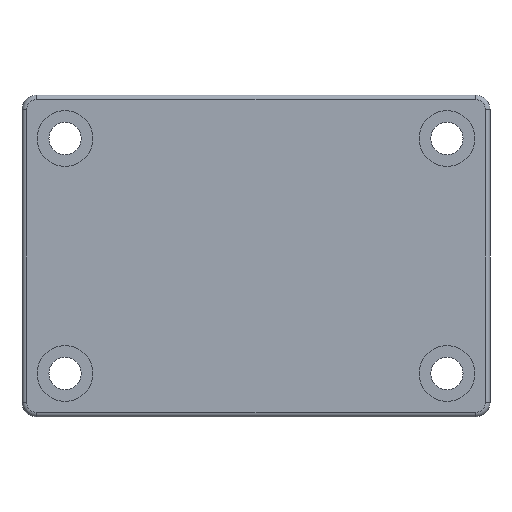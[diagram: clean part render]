
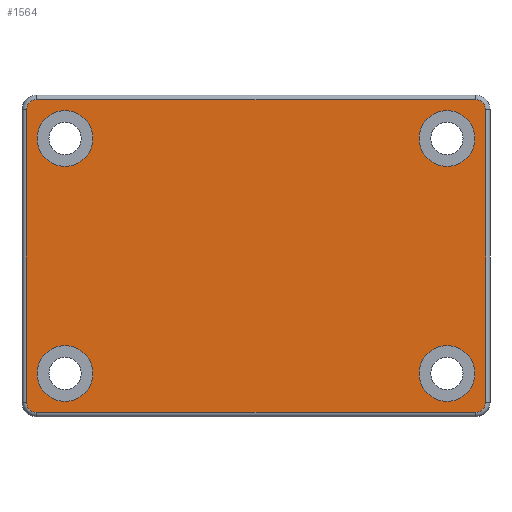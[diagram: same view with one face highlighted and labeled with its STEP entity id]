
A CAD part, front view. The second image highlights one B-rep face of the part: STEP entity #1564.
In plain terms, the highlighted planar face has unit normal (0, -1, 0).
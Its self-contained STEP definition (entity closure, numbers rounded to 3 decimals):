
#32 = EDGE_CURVE ( 'NONE', #1865, #757, #979, .T. ) ;
#47 = LINE ( 'NONE', #1598, #490 ) ;
#57 = VERTEX_POINT ( 'NONE', #849 ) ;
#142 = AXIS2_PLACEMENT_3D ( 'NONE', #687, #1727, #819 ) ;
#150 = ORIENTED_EDGE ( 'NONE', *, *, #1289, .T. ) ;
#181 = DIRECTION ( 'NONE',  ( 0., -1., 0. ) ) ;
#203 = EDGE_CURVE ( 'NONE', #757, #1089, #1451, .T. ) ;
#206 = AXIS2_PLACEMENT_3D ( 'NONE', #1250, #373, #1407 ) ;
#214 = LINE ( 'NONE', #707, #944 ) ;
#229 = EDGE_CURVE ( 'NONE', #521, #1394, #1803, .T. ) ;
#240 = DIRECTION ( 'NONE',  ( 0., -1., 0. ) ) ;
#262 = CIRCLE ( 'NONE', #637, 1.9 ) ;
#288 = AXIS2_PLACEMENT_3D ( 'NONE', #1314, #419, #1459 ) ;
#314 = AXIS2_PLACEMENT_3D ( 'NONE', #662, #1704, #796 ) ;
#317 = EDGE_LOOP ( 'NONE', ( #821, #1785 ) ) ;
#332 = CARTESIAN_POINT ( 'NONE',  ( 15.63, 0., 9.95 ) ) ;
#359 = FACE_BOUND ( 'NONE', #317, .T. ) ;
#373 = DIRECTION ( 'NONE',  ( 0., -1., 0. ) ) ;
#388 = CIRCLE ( 'NONE', #695, 0.7 ) ;
#403 = CIRCLE ( 'NONE', #1263, 1.9 ) ;
#419 = DIRECTION ( 'NONE',  ( 0., 1., 0. ) ) ;
#424 = EDGE_CURVE ( 'NONE', #1053, #1618, #1911, .T. ) ;
#444 = CARTESIAN_POINT ( 'NONE',  ( -13., 0., 6.1 ) ) ;
#451 = DIRECTION ( 'NONE',  ( 0., -1., 0. ) ) ;
#459 = VERTEX_POINT ( 'NONE', #562 ) ;
#481 = CIRCLE ( 'NONE', #206, 1.9 ) ;
#485 = ORIENTED_EDGE ( 'NONE', *, *, #755, .T. ) ;
#490 = VECTOR ( 'NONE', #712, 1000. ) ;
#513 = CARTESIAN_POINT ( 'NONE',  ( 13., 0., -8. ) ) ;
#521 = VERTEX_POINT ( 'NONE', #1763 ) ;
#530 = EDGE_CURVE ( 'NONE', #1482, #57, #1681, .T. ) ;
#531 = VECTOR ( 'NONE', #700, 1000. ) ;
#533 = CARTESIAN_POINT ( 'NONE',  ( 13., 0., -6.1 ) ) ;
#550 = CARTESIAN_POINT ( 'NONE',  ( 14.93, 0., 10.65 ) ) ;
#553 = CARTESIAN_POINT ( 'NONE',  ( -14.93, 0., -9.95 ) ) ;
#562 = CARTESIAN_POINT ( 'NONE',  ( 13., 0., 9.9 ) ) ;
#573 = AXIS2_PLACEMENT_3D ( 'NONE', #553, #1595, #704 ) ;
#584 = DIRECTION ( 'NONE',  ( 0., -1., 0. ) ) ;
#599 = VECTOR ( 'NONE', #1590, 1000. ) ;
#612 = AXIS2_PLACEMENT_3D ( 'NONE', #625, #1673, #1212 ) ;
#620 = CARTESIAN_POINT ( 'NONE',  ( 13., 0., 6.1 ) ) ;
#625 = CARTESIAN_POINT ( 'NONE',  ( 14.93, 0., 9.95 ) ) ;
#629 = EDGE_CURVE ( 'NONE', #1827, #459, #403, .T. ) ;
#637 = AXIS2_PLACEMENT_3D ( 'NONE', #1664, #765, #1818 ) ;
#662 = CARTESIAN_POINT ( 'NONE',  ( -13., 0., -8. ) ) ;
#667 = DIRECTION ( 'NONE',  ( 0., 0., -1. ) ) ;
#672 = CIRCLE ( 'NONE', #1672, 1.9 ) ;
#687 = CARTESIAN_POINT ( 'NONE',  ( -13., 0., 8. ) ) ;
#691 = ORIENTED_EDGE ( 'NONE', *, *, #229, .F. ) ;
#695 = AXIS2_PLACEMENT_3D ( 'NONE', #1125, #240, #1273 ) ;
#700 = DIRECTION ( 'NONE',  ( -1., 0., 0. ) ) ;
#704 = DIRECTION ( 'NONE',  ( 0., 0., 1. ) ) ;
#707 = CARTESIAN_POINT ( 'NONE',  ( -15.63, 0., 0. ) ) ;
#712 = DIRECTION ( 'NONE',  ( 1., 0., 0. ) ) ;
#724 = EDGE_CURVE ( 'NONE', #459, #1827, #262, .T. ) ;
#755 = EDGE_CURVE ( 'NONE', #1834, #1865, #1794, .T. ) ;
#757 = VERTEX_POINT ( 'NONE', #332 ) ;
#760 = CARTESIAN_POINT ( 'NONE',  ( -13., 0., -8. ) ) ;
#765 = DIRECTION ( 'NONE',  ( 0., -1., 0. ) ) ;
#766 = EDGE_CURVE ( 'NONE', #870, #1053, #214, .T. ) ;
#774 = ORIENTED_EDGE ( 'NONE', *, *, #424, .T. ) ;
#779 = FACE_BOUND ( 'NONE', #1393, .T. ) ;
#796 = DIRECTION ( 'NONE',  ( 0., 0., -1. ) ) ;
#799 = CARTESIAN_POINT ( 'NONE',  ( -13., 0., -9.9 ) ) ;
#819 = DIRECTION ( 'NONE',  ( 0., 0., -1. ) ) ;
#821 = ORIENTED_EDGE ( 'NONE', *, *, #943, .F. ) ;
#837 = DIRECTION ( 'NONE',  ( 0., -1., 0. ) ) ;
#849 = CARTESIAN_POINT ( 'NONE',  ( 13., 0., -9.9 ) ) ;
#869 = VERTEX_POINT ( 'NONE', #444 ) ;
#870 = VERTEX_POINT ( 'NONE', #1487 ) ;
#884 = VERTEX_POINT ( 'NONE', #1614 ) ;
#893 = ORIENTED_EDGE ( 'NONE', *, *, #766, .T. ) ;
#910 = CARTESIAN_POINT ( 'NONE',  ( 14.93, 0., -10.65 ) ) ;
#913 = DIRECTION ( 'NONE',  ( 0., 0., -1. ) ) ;
#923 = CARTESIAN_POINT ( 'NONE',  ( 15.63, 0., -9.95 ) ) ;
#943 = EDGE_CURVE ( 'NONE', #57, #1482, #672, .T. ) ;
#944 = VECTOR ( 'NONE', #1309, 1000. ) ;
#959 = AXIS2_PLACEMENT_3D ( 'NONE', #1478, #584, #1622 ) ;
#979 = LINE ( 'NONE', #1322, #599 ) ;
#1023 = EDGE_CURVE ( 'NONE', #869, #884, #1678, .T. ) ;
#1052 = CARTESIAN_POINT ( 'NONE',  ( -14.93, 0., 10.65 ) ) ;
#1053 = VERTEX_POINT ( 'NONE', #1438 ) ;
#1081 = ORIENTED_EDGE ( 'NONE', *, *, #629, .F. ) ;
#1084 = EDGE_LOOP ( 'NONE', ( #1081, #1572 ) ) ;
#1089 = VERTEX_POINT ( 'NONE', #550 ) ;
#1096 = ORIENTED_EDGE ( 'NONE', *, *, #32, .T. ) ;
#1125 = CARTESIAN_POINT ( 'NONE',  ( -14.93, 0., 9.95 ) ) ;
#1141 = FACE_BOUND ( 'NONE', #1665, .T. ) ;
#1212 = DIRECTION ( 'NONE',  ( 0., 0., 1. ) ) ;
#1213 = EDGE_CURVE ( 'NONE', #884, #869, #481, .T. ) ;
#1221 = EDGE_CURVE ( 'NONE', #1394, #521, #1226, .T. ) ;
#1226 = CIRCLE ( 'NONE', #314, 1.9 ) ;
#1231 = ORIENTED_EDGE ( 'NONE', *, *, #203, .T. ) ;
#1250 = CARTESIAN_POINT ( 'NONE',  ( -13., 0., 8. ) ) ;
#1260 = ORIENTED_EDGE ( 'NONE', *, *, #1221, .F. ) ;
#1263 = AXIS2_PLACEMENT_3D ( 'NONE', #1350, #451, #1496 ) ;
#1273 = DIRECTION ( 'NONE',  ( 0., 0., 1. ) ) ;
#1287 = ORIENTED_EDGE ( 'NONE', *, *, #1023, .F. ) ;
#1289 = EDGE_CURVE ( 'NONE', #1764, #870, #388, .T. ) ;
#1309 = DIRECTION ( 'NONE',  ( 0., 0., -1. ) ) ;
#1314 = CARTESIAN_POINT ( 'NONE',  ( 0., 0., 0. ) ) ;
#1322 = CARTESIAN_POINT ( 'NONE',  ( 15.63, 0., 0. ) ) ;
#1337 = LINE ( 'NONE', #1587, #531 ) ;
#1350 = CARTESIAN_POINT ( 'NONE',  ( 13., 0., 8. ) ) ;
#1393 = EDGE_LOOP ( 'NONE', ( #1260, #691 ) ) ;
#1394 = VERTEX_POINT ( 'NONE', #799 ) ;
#1405 = AXIS2_PLACEMENT_3D ( 'NONE', #760, #181, #913 ) ;
#1407 = DIRECTION ( 'NONE',  ( 0., 0., -1. ) ) ;
#1429 = ORIENTED_EDGE ( 'NONE', *, *, #1519, .T. ) ;
#1438 = CARTESIAN_POINT ( 'NONE',  ( -15.63, 0., -9.95 ) ) ;
#1451 = CIRCLE ( 'NONE', #612, 0.7 ) ;
#1459 = DIRECTION ( 'NONE',  ( 0., 0., 1. ) ) ;
#1478 = CARTESIAN_POINT ( 'NONE',  ( 13., 0., -8. ) ) ;
#1482 = VERTEX_POINT ( 'NONE', #533 ) ;
#1487 = CARTESIAN_POINT ( 'NONE',  ( -15.63, 0., 9.95 ) ) ;
#1492 = EDGE_LOOP ( 'NONE', ( #1429, #150, #893, #774, #1842, #485, #1096, #1231 ) ) ;
#1496 = DIRECTION ( 'NONE',  ( 0., 0., -1. ) ) ;
#1500 = FACE_BOUND ( 'NONE', #1084, .T. ) ;
#1519 = EDGE_CURVE ( 'NONE', #1089, #1764, #1337, .T. ) ;
#1552 = ORIENTED_EDGE ( 'NONE', *, *, #1213, .F. ) ;
#1554 = EDGE_CURVE ( 'NONE', #1618, #1834, #47, .T. ) ;
#1560 = DIRECTION ( 'NONE',  ( 0., -1., 0. ) ) ;
#1564 = ADVANCED_FACE ( 'NONE', ( #1879, #779, #1141, #359, #1500 ), #1896, .F. ) ;
#1572 = ORIENTED_EDGE ( 'NONE', *, *, #724, .F. ) ;
#1587 = CARTESIAN_POINT ( 'NONE',  ( 0., 0., 10.65 ) ) ;
#1590 = DIRECTION ( 'NONE',  ( 0., 0., 1. ) ) ;
#1595 = DIRECTION ( 'NONE',  ( 0., -1., 0. ) ) ;
#1598 = CARTESIAN_POINT ( 'NONE',  ( 0., 0., -10.65 ) ) ;
#1614 = CARTESIAN_POINT ( 'NONE',  ( -13., 0., 9.9 ) ) ;
#1618 = VERTEX_POINT ( 'NONE', #1910 ) ;
#1622 = DIRECTION ( 'NONE',  ( 0., 0., -1. ) ) ;
#1664 = CARTESIAN_POINT ( 'NONE',  ( 13., 0., 8. ) ) ;
#1665 = EDGE_LOOP ( 'NONE', ( #1287, #1552 ) ) ;
#1672 = AXIS2_PLACEMENT_3D ( 'NONE', #513, #1560, #667 ) ;
#1673 = DIRECTION ( 'NONE',  ( 0., -1., 0. ) ) ;
#1678 = CIRCLE ( 'NONE', #142, 1.9 ) ;
#1681 = CIRCLE ( 'NONE', #959, 1.9 ) ;
#1704 = DIRECTION ( 'NONE',  ( 0., -1., 0. ) ) ;
#1727 = DIRECTION ( 'NONE',  ( 0., -1., 0. ) ) ;
#1745 = CARTESIAN_POINT ( 'NONE',  ( 14.93, 0., -9.95 ) ) ;
#1763 = CARTESIAN_POINT ( 'NONE',  ( -13., 0., -6.1 ) ) ;
#1764 = VERTEX_POINT ( 'NONE', #1052 ) ;
#1785 = ORIENTED_EDGE ( 'NONE', *, *, #530, .F. ) ;
#1794 = CIRCLE ( 'NONE', #1808, 0.7 ) ;
#1803 = CIRCLE ( 'NONE', #1405, 1.9 ) ;
#1808 = AXIS2_PLACEMENT_3D ( 'NONE', #1745, #837, #1891 ) ;
#1818 = DIRECTION ( 'NONE',  ( 0., 0., -1. ) ) ;
#1827 = VERTEX_POINT ( 'NONE', #620 ) ;
#1834 = VERTEX_POINT ( 'NONE', #910 ) ;
#1842 = ORIENTED_EDGE ( 'NONE', *, *, #1554, .T. ) ;
#1865 = VERTEX_POINT ( 'NONE', #923 ) ;
#1879 = FACE_OUTER_BOUND ( 'NONE', #1492, .T. ) ;
#1891 = DIRECTION ( 'NONE',  ( 0., 0., 1. ) ) ;
#1896 = PLANE ( 'NONE',  #288 ) ;
#1910 = CARTESIAN_POINT ( 'NONE',  ( -14.93, 0., -10.65 ) ) ;
#1911 = CIRCLE ( 'NONE', #573, 0.7 ) ;
